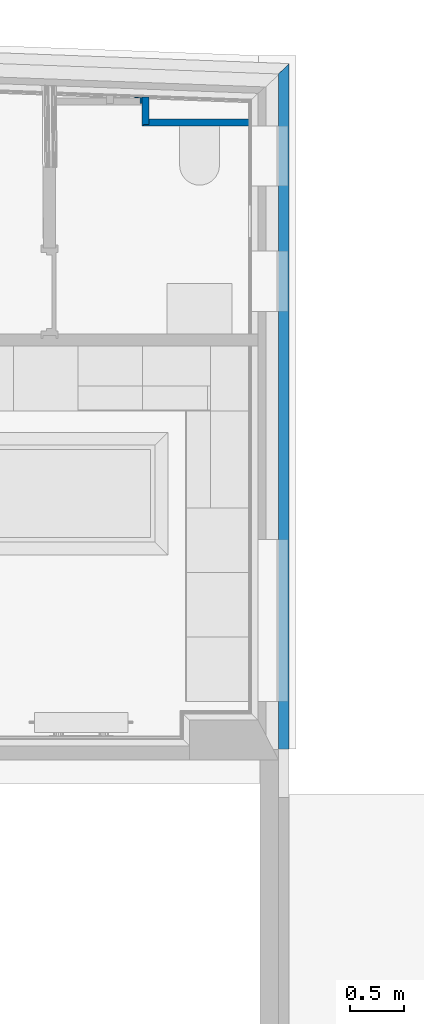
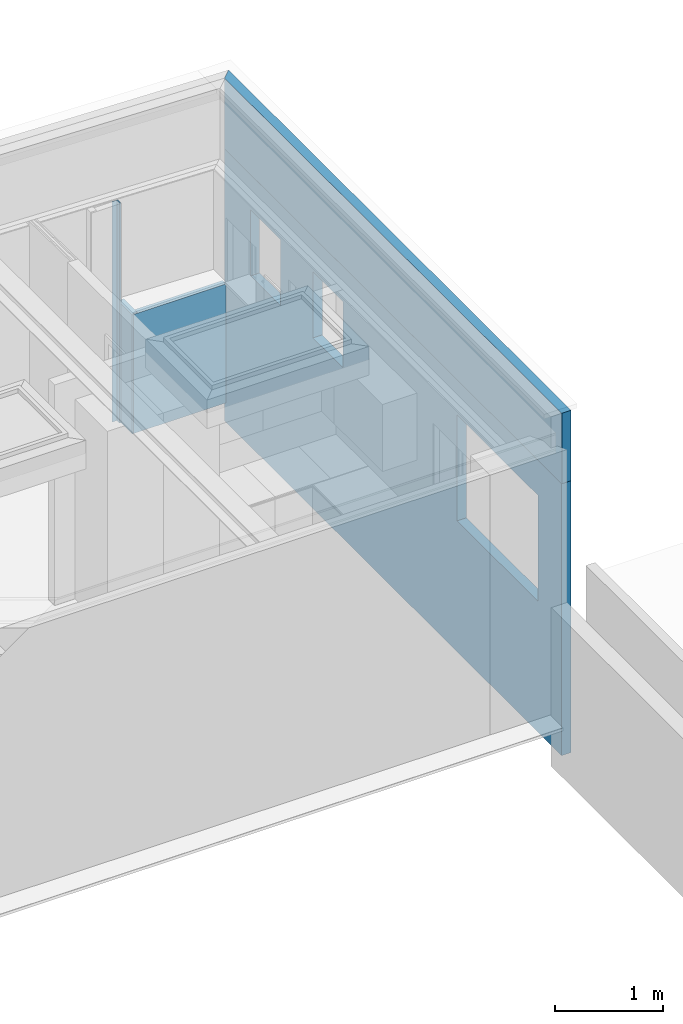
# One storey, part 5 of 22: 5 walls, 3 openings.
"""IFC2X3 building model written with IfcOpenShell, lengths in metres."""

from ifc_helpers import new_model, entity, si_unit, converted_unit, derived_unit, money_unit, direction, frame, frame_2d, origin_with_axes, place, context, subcontext, project, spatial, polyline, rectangle, outline, extrude, material, layer, layer_set, layer_usage, type_object, element, save


model = new_model("IFC2X3")

# Units and contexts
model_context = context("Model", 3, precision=1e-05, world=origin_with_axes(), true_north=direction((0.0, 1.0)))
body_context = subcontext(model_context, "Body", "Model", "MODEL_VIEW", scale=1.0)
ifc_project = project(units=[si_unit("LENGTHUNIT", "METRE"), si_unit("AREAUNIT", "SQUARE_METRE"), si_unit("VOLUMEUNIT", "CUBIC_METRE"), si_unit("ABSORBEDDOSEUNIT", "GRAY"), si_unit("AMOUNTOFSUBSTANCEUNIT", "MOLE"), si_unit("DOSEEQUIVALENTUNIT", "SIEVERT"), si_unit("ELECTRICCAPACITANCEUNIT", "FARAD"), si_unit("ELECTRICCHARGEUNIT", "COULOMB"), si_unit("ELECTRICCONDUCTANCEUNIT", "SIEMENS"), si_unit("ELECTRICCURRENTUNIT", "AMPERE"), si_unit("ELECTRICRESISTANCEUNIT", "OHM"), si_unit("ELECTRICVOLTAGEUNIT", "VOLT"), si_unit("ENERGYUNIT", "JOULE"), si_unit("FORCEUNIT", "NEWTON"), si_unit("FREQUENCYUNIT", "HERTZ"), si_unit("ILLUMINANCEUNIT", "LUX"), si_unit("INDUCTANCEUNIT", "HENRY"), si_unit("LUMINOUSFLUXUNIT", "LUMEN"), si_unit("LUMINOUSINTENSITYUNIT", "CANDELA"), si_unit("MAGNETICFLUXDENSITYUNIT", "TESLA"), si_unit("MAGNETICFLUXUNIT", "WEBER"), si_unit("MASSUNIT", "GRAM"), converted_unit("PLANEANGLEUNIT", "degree", entity("IfcReal", 0.0174532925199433), si_unit("PLANEANGLEUNIT", "RADIAN"), dimensions=[0, 0, 0, 0, 0, 0, 0]), si_unit("POWERUNIT", "WATT"), si_unit("PRESSUREUNIT", "PASCAL"), si_unit("RADIOACTIVITYUNIT", "BECQUEREL"), si_unit("SOLIDANGLEUNIT", "STERADIAN"), si_unit("THERMODYNAMICTEMPERATUREUNIT", "KELVIN"), si_unit("TIMEUNIT", "SECOND"), derived_unit("ACCELERATIONUNIT", [(si_unit("LENGTHUNIT", "METRE"), 1), (si_unit("TIMEUNIT", "SECOND"), -2)]), derived_unit("ANGULARVELOCITYUNIT", [(converted_unit("PLANEANGLEUNIT", "degree", entity("IfcReal", 0.0174532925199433), si_unit("PLANEANGLEUNIT", "RADIAN"), dimensions=[0, 0, 0, 0, 0, 0, 0]), 1), (si_unit("TIMEUNIT", "SECOND"), -1)]), derived_unit("CURVATUREUNIT", [(converted_unit("PLANEANGLEUNIT", "degree", entity("IfcReal", 0.0174532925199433), si_unit("PLANEANGLEUNIT", "RADIAN"), dimensions=[0, 0, 0, 0, 0, 0, 0]), 1), (si_unit("LENGTHUNIT", "METRE"), -1)]), derived_unit("DYNAMICVISCOSITYUNIT", [(si_unit("PRESSUREUNIT", "PASCAL"), 1), (si_unit("TIMEUNIT", "SECOND"), 1)]), derived_unit("HEATFLUXDENSITYUNIT", [(si_unit("POWERUNIT", "WATT"), 1), (si_unit("LENGTHUNIT", "METRE"), -2)]), derived_unit("HEATINGVALUEUNIT", [(si_unit("ENERGYUNIT", "JOULE"), 1), (si_unit("MASSUNIT", "GRAM"), -1)]), derived_unit("INTEGERCOUNTRATEUNIT", [(si_unit("TIMEUNIT", "SECOND"), -1)]), derived_unit("IONCONCENTRATIONUNIT", [(si_unit("MASSUNIT", "GRAM"), 1), (si_unit("VOLUMEUNIT", "CUBIC_METRE"), -1)]), derived_unit("ISOTHERMALMOISTURECAPACITYUNIT", [(si_unit("VOLUMEUNIT", "CUBIC_METRE"), 1), (si_unit("MASSUNIT", "GRAM"), -1)]), derived_unit("KINEMATICVISCOSITYUNIT", [(si_unit("AREAUNIT", "SQUARE_METRE"), 1), (si_unit("TIMEUNIT", "SECOND"), -1)]), derived_unit("LINEARFORCEUNIT", [(si_unit("FORCEUNIT", "NEWTON"), 1), (si_unit("LENGTHUNIT", "METRE"), -1)]), derived_unit("LINEARMOMENTUNIT", [(si_unit("FORCEUNIT", "NEWTON"), 1), (si_unit("LENGTHUNIT", "METRE"), -1)]), derived_unit("LINEARSTIFFNESSUNIT", [(si_unit("FORCEUNIT", "NEWTON"), 1), (si_unit("LENGTHUNIT", "METRE"), -1)]), derived_unit("LINEARVELOCITYUNIT", [(si_unit("LENGTHUNIT", "METRE"), 1), (si_unit("TIMEUNIT", "SECOND"), -1)]), derived_unit("LUMINOUSINTENSITYDISTRIBUTIONUNIT", [(si_unit("LUMINOUSINTENSITYUNIT", "CANDELA"), 1), (si_unit("LUMINOUSFLUXUNIT", "LUMEN"), -1)]), derived_unit("MASSDENSITYUNIT", [(si_unit("MASSUNIT", "GRAM"), 1), (si_unit("VOLUMEUNIT", "CUBIC_METRE"), -1)]), derived_unit("MASSFLOWRATEUNIT", [(si_unit("MASSUNIT", "GRAM"), 1), (si_unit("TIMEUNIT", "SECOND"), -1)]), derived_unit("MASSPERLENGTHUNIT", [(si_unit("MASSUNIT", "GRAM"), 1), (si_unit("LENGTHUNIT", "METRE"), -1)]), derived_unit("MODULUSOFELASTICITYUNIT", [(si_unit("FORCEUNIT", "NEWTON"), 1), (si_unit("AREAUNIT", "SQUARE_METRE"), -1)]), derived_unit("MODULUSOFLINEARSUBGRADEREACTIONUNIT", [(si_unit("FORCEUNIT", "NEWTON"), 1), (si_unit("LENGTHUNIT", "METRE"), -2)]), derived_unit("MODULUSOFROTATIONALSUBGRADEREACTIONUNIT", [(si_unit("FORCEUNIT", "NEWTON"), 1), (si_unit("LENGTHUNIT", "METRE"), 1)]), derived_unit("MODULUSOFSUBGRADEREACTIONUNIT", [(si_unit("FORCEUNIT", "NEWTON"), 1), (si_unit("VOLUMEUNIT", "CUBIC_METRE"), -1)]), derived_unit("MOISTUREDIFFUSIVITYUNIT", [(si_unit("VOLUMEUNIT", "CUBIC_METRE"), 1), (si_unit("TIMEUNIT", "SECOND"), -1)]), derived_unit("MOLECULARWEIGHTUNIT", [(si_unit("MASSUNIT", "GRAM"), 1), (si_unit("AMOUNTOFSUBSTANCEUNIT", "MOLE"), -1)]), derived_unit("PLANARFORCEUNIT", [(si_unit("FORCEUNIT", "NEWTON"), 1), (si_unit("LENGTHUNIT", "METRE"), -2)]), derived_unit("ROTATIONALFREQUENCYUNIT", [(si_unit("TIMEUNIT", "SECOND"), -1)]), derived_unit("ROTATIONALMASSUNIT", [(si_unit("MASSUNIT", "GRAM"), 1), (si_unit("LENGTHUNIT", "METRE"), 2)]), derived_unit("ROTATIONALSTIFFNESSUNIT", [(si_unit("FORCEUNIT", "NEWTON"), 1), (si_unit("LENGTHUNIT", "METRE"), 1), (converted_unit("PLANEANGLEUNIT", "degree", entity("IfcReal", 0.0174532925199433), si_unit("PLANEANGLEUNIT", "RADIAN"), dimensions=[0, 0, 0, 0, 0, 0, 0]), -1)]), derived_unit("SECTIONAREAINTEGRALUNIT", [(si_unit("LENGTHUNIT", "METRE"), 5)]), derived_unit("SECTIONMODULUSUNIT", [(si_unit("LENGTHUNIT", "METRE"), 3)]), derived_unit("SHEARMODULUSUNIT", [(si_unit("FORCEUNIT", "NEWTON"), 1), (si_unit("AREAUNIT", "SQUARE_METRE"), -1)]), derived_unit("SOUNDPOWERUNIT", [(si_unit("ENERGYUNIT", "JOULE"), 1), (si_unit("TIMEUNIT", "SECOND"), -1)]), derived_unit("SPECIFICHEATCAPACITYUNIT", [(si_unit("FORCEUNIT", "NEWTON"), 1), (si_unit("MASSUNIT", "GRAM"), -1), (si_unit("THERMODYNAMICTEMPERATUREUNIT", "KELVIN"), -1)]), derived_unit("TEMPERATUREGRADIENTUNIT", [(si_unit("THERMODYNAMICTEMPERATUREUNIT", "KELVIN"), 1), (si_unit("LENGTHUNIT", "METRE"), -1)]), derived_unit("THERMALADMITTANCEUNIT", [(si_unit("POWERUNIT", "WATT"), 1), (si_unit("AREAUNIT", "SQUARE_METRE"), -1), (si_unit("THERMODYNAMICTEMPERATUREUNIT", "KELVIN"), -1)]), derived_unit("THERMALCONDUCTANCEUNIT", [(si_unit("POWERUNIT", "WATT"), 1), (si_unit("LENGTHUNIT", "METRE"), -1), (si_unit("THERMODYNAMICTEMPERATUREUNIT", "KELVIN"), -1)]), derived_unit("THERMALEXPANSIONCOEFFICIENTUNIT", [(si_unit("THERMODYNAMICTEMPERATUREUNIT", "KELVIN"), -1)]), derived_unit("THERMALRESISTANCEUNIT", [(si_unit("AREAUNIT", "SQUARE_METRE"), 1), (si_unit("POWERUNIT", "WATT"), -1)]), derived_unit("THERMALTRANSMITTANCEUNIT", [(si_unit("POWERUNIT", "WATT"), 1), (si_unit("AREAUNIT", "SQUARE_METRE"), -1), (si_unit("THERMODYNAMICTEMPERATUREUNIT", "KELVIN"), -1)]), derived_unit("TORQUEUNIT", [(si_unit("FORCEUNIT", "NEWTON"), 1), (si_unit("LENGTHUNIT", "METRE"), 1)]), derived_unit("VAPORPERMEABILITYUNIT", [(si_unit("MASSUNIT", "GRAM"), 1), (si_unit("TIMEUNIT", "SECOND"), -1)]), derived_unit("VOLUMETRICFLOWRATEUNIT", [(si_unit("VOLUMEUNIT", "CUBIC_METRE"), 1), (si_unit("TIMEUNIT", "SECOND"), -1)]), derived_unit("WARPINGCONSTANTUNIT", [(si_unit("LENGTHUNIT", "METRE"), 6)]), derived_unit("WARPINGMOMENTUNIT", [(si_unit("FORCEUNIT", "NEWTON"), 1), (si_unit("LENGTHUNIT", "METRE"), 2)]), money_unit("GBP")], contexts=[model_context])

# Site, building, storey
site_placement = place(None, origin_with_axes())
site = spatial("IfcSite", under=ifc_project, at=site_placement, Name="Site", CompositionType="ELEMENT")
building_placement = place(site_placement, origin_with_axes())
building = spatial("IfcBuilding", under=site, at=building_placement, Name="Building01", CompositionType="ELEMENT")
storey_placement = place(building_placement, frame((0.0, 0.0, 2.6), z_axis=(0.0, 0.0, 1.0), x_axis=(1.0, 0.0, 0.0)))
storey = spatial("IfcBuildingStorey", under=building, at=storey_placement, Name="MF", CompositionType="ELEMENT", Elevation=2.6)

# Wall, openings
ifc_material_1 = material(Name="A_BSUK_WallsExternal_Brick")
ifc_layer_1 = layer(ifc_material_1, 0.1, ventilated=False)
ifc_layer_set_1 = layer_set([ifc_layer_1])
ifc_layer_usage_1 = layer_usage(ifc_layer_set_1, "AXIS2", "POSITIVE", 0.0)
wall_type_1 = type_object("IfcWallType", Name="A-Walls-ExternalBrick", PredefinedType="NOTDEFINED")
wall_1_placement = place(storey_placement, frame((9.343038, 21.166066, 0.0), z_axis=(0.0, 0.0, 1.0), x_axis=(0.0, -1.0, 0.0)))
wall_1 = element("IfcWallStandardCase", 1, at=wall_1_placement, inside=storey, type_object=wall_type_1, material=ifc_layer_usage_1, Name="A-Walls-ExternalBrick", ObjectType="A-Walls-ExternalBrick", context=body_context, shape_type="SweptSolid", body=[
    extrude(outline(polyline([(6.265024, 0.1), (-0.096359, 0.1), (0.0, 0.0), (6.265024, 0.0), (6.265024, 0.1)])), origin_with_axes(), (0.0, 0.0, 1.0), 3.085),
])
opening_1_placement = place(wall_1_placement, frame((4.323276, 0.0, 1.485), z_axis=(0.0, 0.0, 1.0), x_axis=(1.0, 0.0, 0.0)))
element("IfcOpeningElement", 2, at=opening_1_placement, cuts=wall_1, Name="Opening", ObjectType="Opening", context=body_context, shape_type="SweptSolid", body=[
    extrude(rectangle(XDim=1.2, YDim=1.5, at=frame_2d((-0.75, 0.6), x_axis=(0.0, -1.0))), frame((0.0, 0.0, 0.0), z_axis=(0.0, 1.0, 0.0), x_axis=(-1.0, 0.0, 0.0)), (0.0, 0.0, 1.0), 0.1),
])
opening_2_placement = place(wall_1_placement, frame((1.643772, 0.0, 1.935), z_axis=(0.0, 0.0, 1.0), x_axis=(1.0, 0.0, 0.0)))
element("IfcOpeningElement", 3, at=opening_2_placement, cuts=wall_1, Name="Opening", ObjectType="Opening", context=body_context, shape_type="SweptSolid", body=[
    extrude(rectangle(XDim=0.75, YDim=0.56, at=frame_2d((-0.28, 0.375), x_axis=(0.0, -1.0))), frame((0.0, 0.0, 0.0), z_axis=(0.0, 1.0, 0.0), x_axis=(-1.0, 0.0, 0.0)), (0.0, 0.0, 1.0), 0.1),
])
opening_3_placement = place(wall_1_placement, frame((0.482163, 0.0, 1.935), z_axis=(0.0, 0.0, 1.0), x_axis=(1.0, 0.0, 0.0)))
element("IfcOpeningElement", 4, at=opening_3_placement, cuts=wall_1, Name="Opening", ObjectType="Opening", context=body_context, shape_type="SweptSolid", body=[
    extrude(rectangle(XDim=0.75, YDim=0.56, at=frame_2d((-0.28, 0.375), x_axis=(0.0, -1.0))), frame((0.0, 0.0, 0.0), z_axis=(0.0, 1.0, 0.0), x_axis=(-1.0, 0.0, 0.0)), (0.0, 0.0, 1.0), 0.1),
])

# Walls
wall_2_placement = place(storey_placement, frame((9.343273, 21.16599, 3.085), z_axis=(0.0, 0.0, 1.0), x_axis=(-3.756e-05, -1.0, 0.0)))
element("IfcWallStandardCase", 5, at=wall_2_placement, inside=storey, type_object=wall_type_1, material=ifc_layer_usage_1, Name="A-Walls-ExternalBrick", ObjectType="A-Walls-ExternalBrick", context=body_context, shape_type="SweptSolid", body=[
    extrude(outline(polyline([(-0.096363, 0.1), (0.0, 0.0), (6.268329, 0.0), (6.268329, 0.1), (-0.096363, 0.1)])), origin_with_axes(), (0.0, 0.0, 1.0), 0.8),
])
ifc_material_2 = material(Name="A_BSUK_OpeningsClearance")
ifc_layer_2 = layer(ifc_material_2, 0.05, ventilated=False)
ifc_material_3 = material(Name="A_BSUK_Walls_Timber")
ifc_layer_3 = layer(ifc_material_3, 0.015, ventilated=False)
ifc_layer_set_2 = layer_set([ifc_layer_2, ifc_layer_3])
ifc_layer_usage_2 = layer_usage(ifc_layer_set_2, "AXIS2", "POSITIVE", 0.0)
wall_type_2 = type_object("IfcWallType", Name="SHE_A-Walls_Type05c_PreWallShell_65mm", PredefinedType="NOTDEFINED")
wall_3_placement = place(storey_placement, frame((8.009417, 20.948792, 0.585), z_axis=(0.0, 0.0, 1.0), x_axis=(0.0, -1.0, 0.0)))
element("IfcWallStandardCase", 6, at=wall_3_placement, inside=storey, type_object=wall_type_2, material=ifc_layer_usage_2, Name="5C", ObjectType="SHE_A-Walls_Type05c_PreWallShell_65mm", context=body_context, shape_type="SweptSolid", body=[
    extrude(outline(polyline([(0.004682, 0.05), (0.054682, 0.05), (0.054682, 0.065), (0.002411, 0.065), (0.0, 0.0), (0.004682, 0.0), (0.004682, 0.05)])), origin_with_axes(), (0.0, 0.0, 1.0), 2.5),
])
wall_4_placement = place(storey_placement, frame((9.082265, 20.748903, 0.585), z_axis=(0.0, 0.0, 1.0), x_axis=(-1.0, 0.0, 0.0)))
element("IfcWallStandardCase", 7, at=wall_4_placement, inside=storey, type_object=wall_type_2, material=ifc_layer_usage_2, Name="5C", ObjectType="SHE_A-Walls_Type05c_PreWallShell_65mm", context=body_context, shape_type="SweptSolid", body=[
    extrude(outline(polyline([(0.942848, 0.05), (0.992848, 0.05), (0.992848, 0.065), (0.0, 0.065), (0.0, 0.0), (0.942848, 0.0), (0.942848, 0.05)])), origin_with_axes(), (0.0, 0.0, 1.0), 1.35),
])
wall_5_placement = place(storey_placement, frame((8.139417, 20.698903, 0.585), z_axis=(0.0, 0.0, 1.0), x_axis=(0.0, 1.0, 0.0)))
element("IfcWallStandardCase", 8, at=wall_5_placement, inside=storey, type_object=wall_type_2, material=ifc_layer_usage_2, Name="5C", ObjectType="SHE_A-Walls_Type05c_PreWallShell_65mm", context=body_context, shape_type="SweptSolid", body=[
    extrude(outline(polyline([(0.255048, 0.065), (-0.015, 0.065), (-0.015, 0.05), (0.0, 0.05), (0.0, 0.0), (0.252637, 0.0), (0.255048, 0.065)])), origin_with_axes(), (0.0, 0.0, 1.0), 1.35),
])

save(model, "model.ifc")
